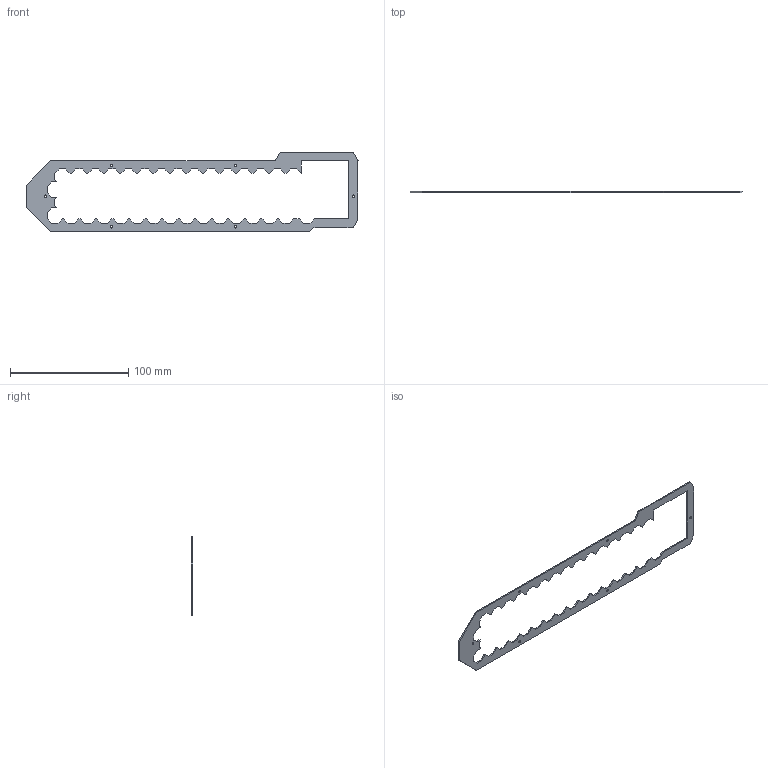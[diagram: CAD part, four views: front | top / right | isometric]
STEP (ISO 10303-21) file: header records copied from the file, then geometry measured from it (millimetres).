
FILE_DESCRIPTION(/* description */ ('STEP AP242','CAx-IF Rec.Pracs.---Representation and Presentation of Product Manufacturing Information (PMI)---4.0---2014-10-13','CAx-IF Rec.Pracs.---3D Tessellated Geometry---0.4---2014-09-14','2;1'),/* implementation_level */ '2;1');
FILE_NAME(/* name */ '65b7cba2d6a5f9253210bad8',/* time_stamp */ '2024-01-29T16:00:35Z',/* author */ (''),/* organization */ (''),/* preprocessor_version */ 'ST-DEVELOPER v19.4',/* originating_system */ ' ',/* authorisation */ ' ');
FILE_SCHEMA (('AP242_MANAGED_MODEL_BASED_3D_ENGINEERING_MIM_LF { 1 0 10303 442 1 1 4 }'));
Length unit declared in the file: metre
Products named in the file (1): Part 30
Bounding box: 281.25 x 1 x 67.05 mm (x, y, z)
Volume: 5562.3 mm3; surface area: 12543.7 mm2
Topology: 1 solids, 1 shells, 160 faces, 483 edges, 325 vertices
Faces by surface type: plane 154, cylinder 6
Full cylindrical faces by diameter (mm): 2 x6
Entity records: 5363 total; most frequent: CARTESIAN_POINT 999, ORIENTED_EDGE 954, DIRECTION 799, EDGE_CURVE 477, LINE 453, VECTOR 453, VERTEX_POINT 325, EDGE_LOOP 180
